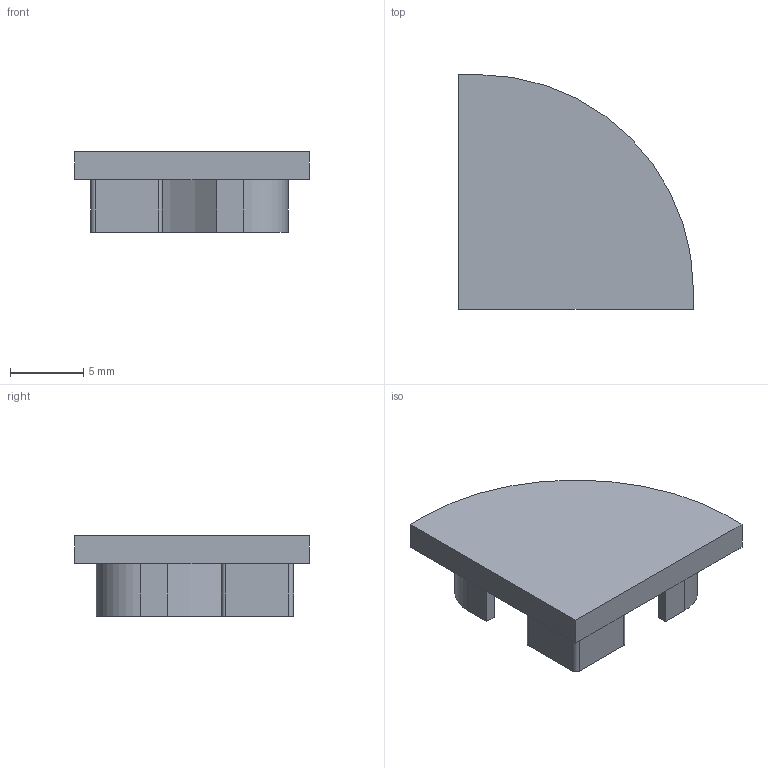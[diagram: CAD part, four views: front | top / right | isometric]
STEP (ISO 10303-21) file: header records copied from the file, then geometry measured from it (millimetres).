
FILE_DESCRIPTION (( 'STEP AP214' ), '1' );
FILE_NAME ('AC2 End Cap.STEP', '2024-10-11T14:43:49', ( '' ), ( '' ), 'SwSTEP 2.0', 'SolidWorks 2023', '' );
FILE_SCHEMA (( 'AUTOMOTIVE_DESIGN' ));
Length unit declared in the file: millimetre
Products named in the file (1): AC2 End Cap
Bounding box: 16 x 16 x 5.5 mm (x, y, z)
Volume: 501.8 mm3; surface area: 825.8 mm2
Topology: 1 solids, 1 shells, 34 faces, 87 edges, 58 vertices
Faces by surface type: plane 21, cylinder 13
Entity records: 1060 total; most frequent: DIRECTION 183, CARTESIAN_POINT 180, ORIENTED_EDGE 174, EDGE_CURVE 87, VECTOR 61, AXIS2_PLACEMENT_3D 61, LINE 61, VERTEX_POINT 58
